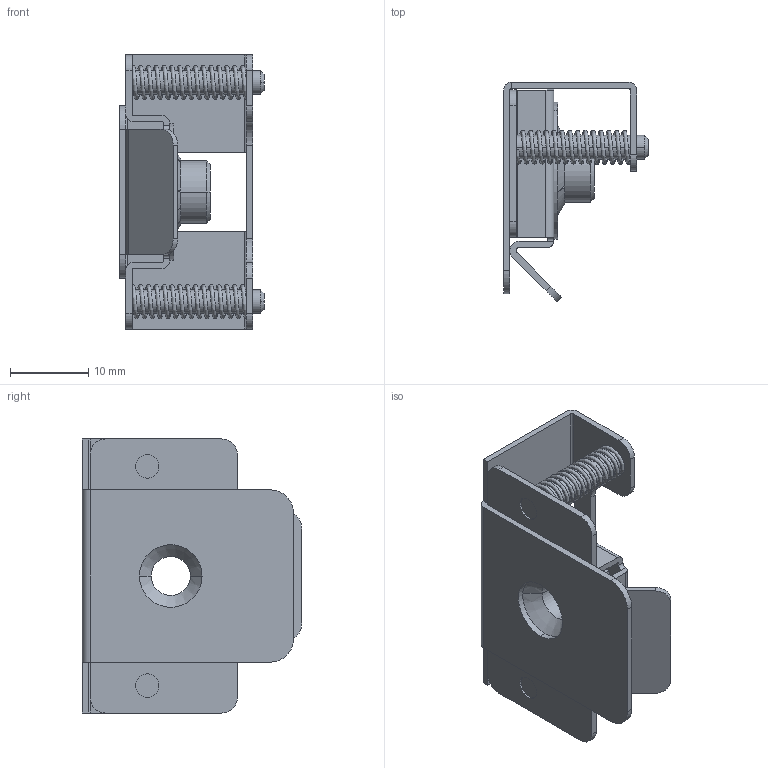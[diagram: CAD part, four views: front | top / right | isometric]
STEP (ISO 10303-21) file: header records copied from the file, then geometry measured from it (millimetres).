
FILE_DESCRIPTION (( 'STEP AP214' ), '1' );
FILE_NAME ('EB-1001-M5.STEP', '2020-02-27T11:21:44', ( '' ), ( '' ), 'SwSTEP 2.0', 'SolidWorks 2019', '' );
FILE_SCHEMA (( 'AUTOMOTIVE_DESIGN' ));
Length unit declared in the file: millimetre
Products named in the file (6): プッシュナットφ8; EB-1001Bracket; EB-1001Case; EB-1001NutM5; EB-1001-M5; EB-1001Spring
Assembly tree (6 placements, depth 2):
  EB-1001-M5
    EB-1001Case
    EB-1001Bracket
    EB-1001NutM5
    プッシュナットφ8
    EB-1001Spring  x2
Bounding box: 18.5 x 28.03 x 35 mm (x, y, z)
Volume: 3114.1 mm3; surface area: 6975.1 mm2
Topology: 6 solids, 6 shells, 162 faces, 416 edges, 269 vertices
Faces by surface type: plane 77, cylinder 57, cone 24, bspline 4
Entity records: 8873 total; most frequent: CARTESIAN_POINT 4674, DIRECTION 857, ORIENTED_EDGE 820, EDGE_CURVE 410, AXIS2_PLACEMENT_3D 320, VERTEX_POINT 265, LINE 217, VECTOR 217
